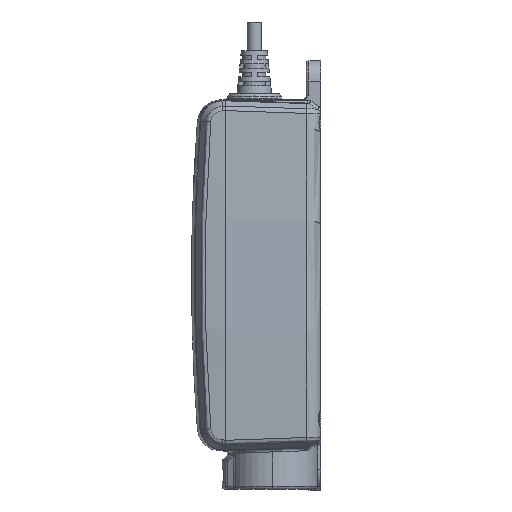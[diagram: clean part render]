
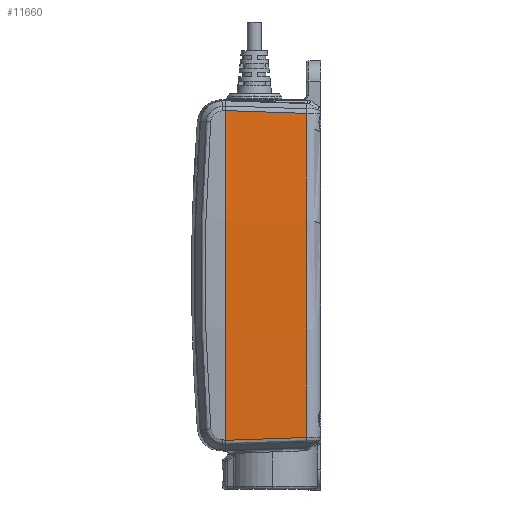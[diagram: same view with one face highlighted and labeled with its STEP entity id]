
A CAD part, left-side view. The second image highlights one B-rep face of the part: STEP entity #11660.
In plain terms, the highlighted conical face has half-angle 2 degrees and reference radius 1000 mm.
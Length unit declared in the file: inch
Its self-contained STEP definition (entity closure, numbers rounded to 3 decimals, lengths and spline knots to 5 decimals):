
#762 = VERTEX_POINT ( 'NONE', #21210 ) ;
#777 = AXIS2_PLACEMENT_3D ( 'NONE', #6566, #1164, #12099 ) ;
#1164 = DIRECTION ( 'NONE',  ( 0., 1., 0. ) ) ;
#2712 = CARTESIAN_POINT ( 'NONE',  ( -1.5969, -0.17273, 2.24756 ) ) ;
#2984 = CARTESIAN_POINT ( 'NONE',  ( -1.58434, -0.55326, -2.23436 ) ) ;
#3803 = CARTESIAN_POINT ( 'NONE',  ( 37.70293, -1.10923, 0. ) ) ;
#4218 = EDGE_LOOP ( 'NONE', ( #10127, #5234, #15058, #19295 ) ) ;
#4713 = VERTEX_POINT ( 'NONE', #8926 ) ;
#4882 = CARTESIAN_POINT ( 'NONE',  ( -1.57597, -0.80694, -2.22556 ) ) ;
#5046 = VERTEX_POINT ( 'NONE', #17833 ) ;
#5058 = CARTESIAN_POINT ( 'NONE',  ( -1.59043, -0.36884, -2.24076 ) ) ;
#5234 = ORIENTED_EDGE ( 'NONE', *, *, #20787, .T. ) ;
#5783 = CONICAL_SURFACE ( 'NONE', #12544, 39.37008, 0.035 ) ;
#6245 = CARTESIAN_POINT ( 'NONE',  ( -1.58434, -0.55326, 2.23436 ) ) ;
#6566 = CARTESIAN_POINT ( 'NONE',  ( 37.70293, 0., 0. ) ) ;
#6863 = CIRCLE ( 'NONE', #7259, 39.33134 ) ;
#6910 = CARTESIAN_POINT ( 'NONE',  ( -1.58016, -0.6801, -2.22996 ) ) ;
#7259 = AXIS2_PLACEMENT_3D ( 'NONE', #3803, #15051, #9424 ) ;
#8074 = CARTESIAN_POINT ( 'NONE',  ( -1.6026, 0., 2.25355 ) ) ;
#8926 = CARTESIAN_POINT ( 'NONE',  ( -1.56599, -1.10923, -2.21508 ) ) ;
#9424 = DIRECTION ( 'NONE',  ( 0., 0., -1. ) ) ;
#9856 = CARTESIAN_POINT ( 'NONE',  ( -1.58853, -0.42641, 2.23876 ) ) ;
#10127 = ORIENTED_EDGE ( 'NONE', *, *, #19803, .T. ) ;
#10801 = CARTESIAN_POINT ( 'NONE',  ( -1.56599, -1.10923, 2.21508 ) ) ;
#11660 = ADVANCED_FACE ( 'NONE', ( #13231 ), #5783, .T. ) ;
#11855 = CARTESIAN_POINT ( 'NONE',  ( -1.57211, -0.92391, 2.22151 ) ) ;
#12099 = DIRECTION ( 'NONE',  ( 0., 0., 1. ) ) ;
#12134 = CARTESIAN_POINT ( 'NONE',  ( -1.6026, 0., -2.25355 ) ) ;
#12544 = AXIS2_PLACEMENT_3D ( 'NONE', #19506, #15988, #21488 ) ;
#13231 = FACE_OUTER_BOUND ( 'NONE', #4218, .T. ) ;
#13457 = CARTESIAN_POINT ( 'NONE',  ( -1.5988, -0.11515, 2.24956 ) ) ;
#13703 = CARTESIAN_POINT ( 'NONE',  ( -1.57823, -0.73858, 2.22793 ) ) ;
#14976 = VERTEX_POINT ( 'NONE', #10801 ) ;
#15051 = DIRECTION ( 'NONE',  ( 0., 1., 0. ) ) ;
#15058 = ORIENTED_EDGE ( 'NONE', *, *, #17091, .F. ) ;
#15397 = EDGE_CURVE ( 'NONE', #762, #4713, #20999, .T. ) ;
#15988 = DIRECTION ( 'NONE',  ( 0., 1., 0. ) ) ;
#17091 = EDGE_CURVE ( 'NONE', #762, #5046, #17596, .T. ) ;
#17596 = CIRCLE ( 'NONE', #777, 39.37008 ) ;
#17760 = CARTESIAN_POINT ( 'NONE',  ( -1.57178, -0.93378, -2.22116 ) ) ;
#17833 = CARTESIAN_POINT ( 'NONE',  ( -1.6026, 0., 2.25355 ) ) ;
#19295 = ORIENTED_EDGE ( 'NONE', *, *, #15397, .T. ) ;
#19445 = CARTESIAN_POINT ( 'NONE',  ( -1.59651, -0.18442, -2.24715 ) ) ;
#19506 = CARTESIAN_POINT ( 'NONE',  ( 37.70293, 0., 0. ) ) ;
#19803 = EDGE_CURVE ( 'NONE', #4713, #14976, #6863, .T. ) ;
#20787 = EDGE_CURVE ( 'NONE', #14976, #5046, #22704, .T. ) ;
#20854 = CARTESIAN_POINT ( 'NONE',  ( -1.6007, -0.05758, 2.25155 ) ) ;
#20998 = CARTESIAN_POINT ( 'NONE',  ( -1.56599, -1.10923, 2.21508 ) ) ;
#20999 = B_SPLINE_CURVE_WITH_KNOTS ( 'NONE', 3,
 ( #12134, #19445, #5058, #2984, #6910, #4882, #17760, #21347, #21424, #23231 ),
 .UNSPECIFIED., .F., .F.,
 ( 4, 3, 3, 4 ),
 ( 0., 0.01407, 0.02375, 0.02821 ),
 .UNSPECIFIED. ) ;
#21210 = CARTESIAN_POINT ( 'NONE',  ( -1.6026, 0., -2.25355 ) ) ;
#21347 = CARTESIAN_POINT ( 'NONE',  ( -1.56985, -0.99226, -2.21914 ) ) ;
#21424 = CARTESIAN_POINT ( 'NONE',  ( -1.56792, -1.05075, -2.21711 ) ) ;
#21488 = DIRECTION ( 'NONE',  ( 0., 0., 1. ) ) ;
#22704 = B_SPLINE_CURVE_WITH_KNOTS ( 'NONE', 3,
 ( #20998, #11855, #13703, #6245, #9856, #22895, #2712, #13457, #20854, #8074 ),
 .UNSPECIFIED., .F., .F.,
 ( 4, 3, 3, 4 ),
 ( 0., 0.01414, 0.02381, 0.02821 ),
 .UNSPECIFIED. ) ;
#22895 = CARTESIAN_POINT ( 'NONE',  ( -1.59271, -0.29957, 2.24316 ) ) ;
#23231 = CARTESIAN_POINT ( 'NONE',  ( -1.56599, -1.10923, -2.21508 ) ) ;
